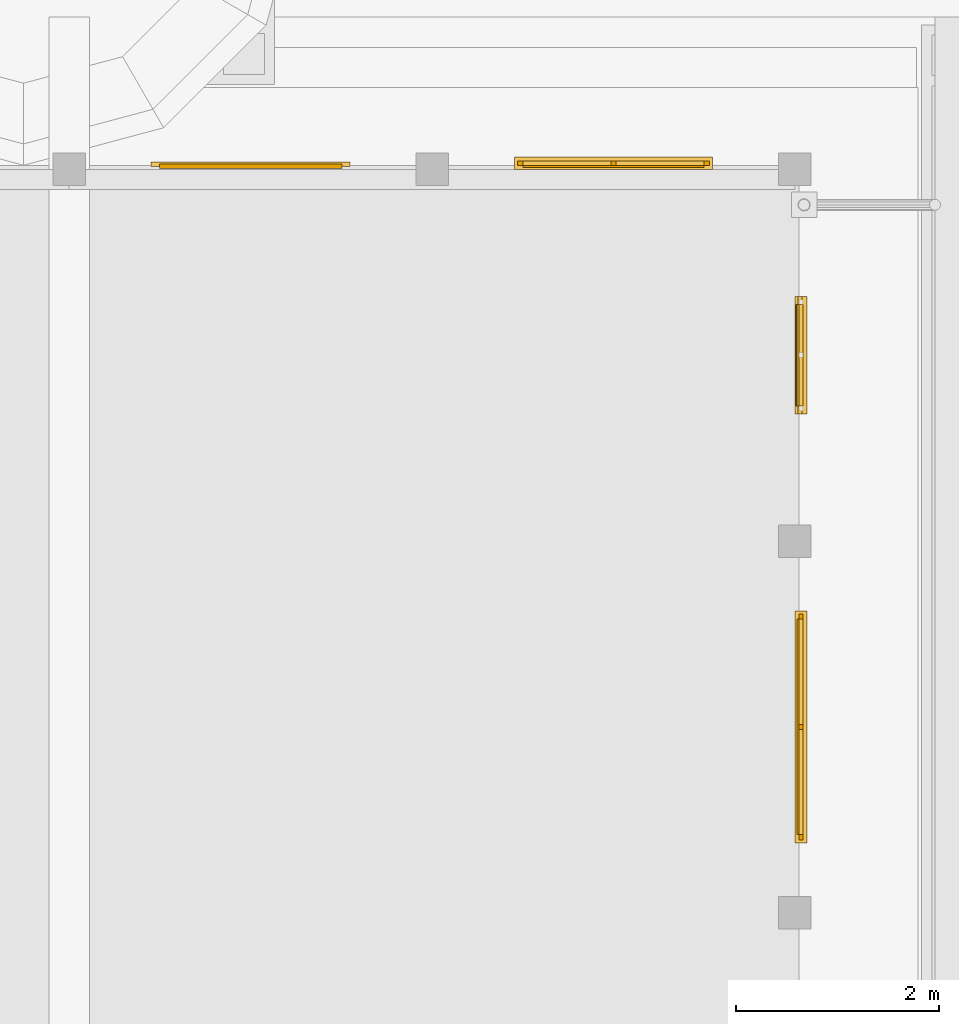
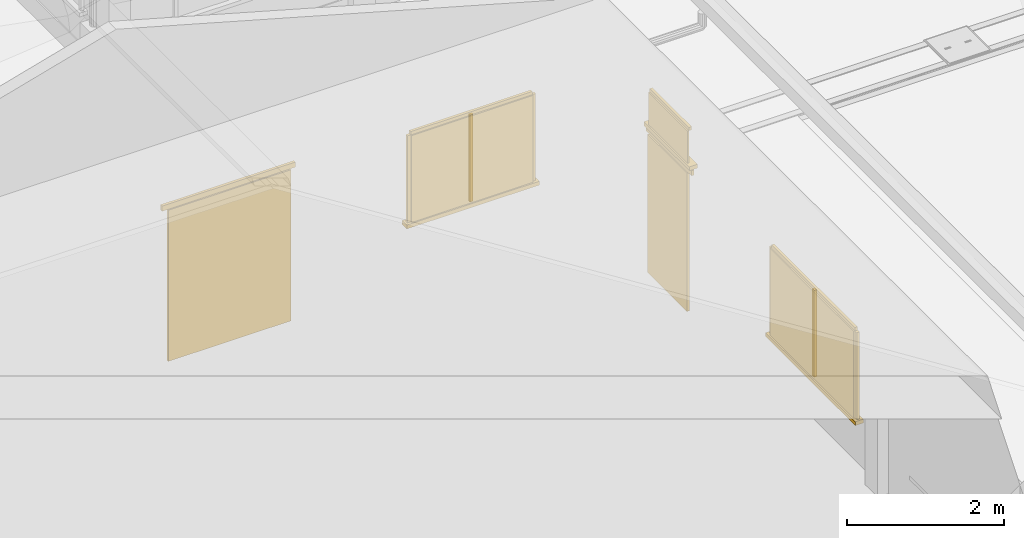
# One storey, part 61 of 177: 15 windows, 4 doors.
"""IFC4 building model written with IfcOpenShell, lengths in metres."""

from ifc_helpers import new_model, si_unit, origin, origin_with_axes, place, context, subcontext, project, spatial, triangles, element, save


model = new_model("IFC4")

# Units and contexts
model_context = context("Model", 3, precision=1e-05, world=origin_with_axes())
body_context = subcontext(model_context, "Body", "Model", "MODEL_VIEW")
ifc_project = project(units=[si_unit("LENGTHUNIT", "METRE"), si_unit("AREAUNIT", "SQUARE_METRE"), si_unit("VOLUMEUNIT", "CUBIC_METRE"), si_unit("PLANEANGLEUNIT", "RADIAN")], contexts=[model_context])

# Site, building, storey
site_placement = place(None, origin_with_axes())
site = spatial("IfcSite", under=ifc_project, at=site_placement, Name="Predio Los Mangos - Morales, San Martín", CompositionType="ELEMENT")
building_placement = place(site_placement, origin())
building = spatial("IfcBuilding", under=site, at=building_placement, Name="Hogar de Refugio Temporal", CompositionType="ELEMENT")
storey_placement = place(building_placement, origin())
storey = spatial("IfcBuildingStorey", under=building, at=storey_placement, Name="NIVEL 1 (NPT +0.00)", CompositionType="ELEMENT", Elevation=0.0)

# Doors
door_1_placement = place(storey_placement, origin())
element("IfcDoor", 1, at=door_1_placement, inside=storey, Name="E-05_pp", ObjectType="Puerta", PredefinedType="DOOR", context=body_context, shape_type="Tessellation", body=[
    triangles([(53.3375, 87.21, 0.15), (55.1375, 87.21, 0.15), (55.1375, 87.25, 0.15), (53.3375, 87.25, 0.15), (53.3375, 87.21, 2.5), (55.1375, 87.21, 2.5), (55.1375, 87.25, 2.5), (53.3375, 87.25, 2.5)], [[1, 4, 3], [1, 3, 2], [5, 6, 7], [5, 7, 8], [1, 2, 6], [1, 6, 5], [2, 3, 7], [2, 7, 6], [3, 4, 8], [3, 8, 7], [4, 1, 5], [4, 5, 8]]),
])
door_2_placement = place(storey_placement, origin())
element("IfcDoor", 2, at=door_2_placement, inside=storey, Name="E-05_pp_marco", ObjectType="Puerta", PredefinedType="DOOR", context=body_context, shape_type="Tessellation", body=[
    triangles([(53.2575, 87.23, 2.5), (55.2175, 87.23, 2.5), (55.2175, 87.27, 2.5), (53.2575, 87.27, 2.5), (53.2575, 87.23, 2.58), (55.2175, 87.23, 2.58), (55.2175, 87.27, 2.58), (53.2575, 87.27, 2.58)], [[1, 4, 3], [1, 3, 2], [5, 6, 7], [5, 7, 8], [1, 2, 6], [1, 6, 5], [2, 3, 7], [2, 7, 6], [3, 4, 8], [3, 8, 7], [4, 1, 5], [4, 5, 8]]),
])

# Windows
window_1_placement = place(storey_placement, origin())
element("IfcWindow", 3, at=window_1_placement, inside=storey, Name="E-05_vg3_vid", ObjectType="Ventana", PredefinedType="WINDOW", context=body_context, shape_type="Tessellation", body=[
    triangles([(56.9188, 87.22, 1.05), (58.7062, 87.22, 1.05), (58.7062, 87.24, 1.05), (56.9188, 87.24, 1.05), (56.9188, 87.22, 2.4), (58.7062, 87.22, 2.4), (58.7062, 87.24, 2.4), (56.9188, 87.24, 2.4)], [[1, 4, 3], [1, 3, 2], [5, 6, 7], [5, 7, 8], [1, 2, 6], [1, 6, 5], [2, 3, 7], [2, 7, 6], [3, 4, 8], [3, 8, 7], [4, 1, 5], [4, 5, 8]]),
])
window_2_placement = place(storey_placement, origin())
element("IfcWindow", 4, at=window_2_placement, inside=storey, Name="E-05_vg3_m", ObjectType="Ventana", PredefinedType="WINDOW", context=body_context, shape_type="Tessellation", body=[
    triangles([(56.8688, 87.24, 1.05), (56.9188, 87.24, 1.05), (56.9188, 87.28, 1.05), (56.8688, 87.28, 1.05), (56.8688, 87.24, 2.4), (56.9188, 87.24, 2.4), (56.9188, 87.28, 2.4), (56.8688, 87.28, 2.4)], [[1, 4, 3], [1, 3, 2], [5, 6, 7], [5, 7, 8], [1, 2, 6], [1, 6, 5], [2, 3, 7], [2, 7, 6], [3, 4, 8], [3, 8, 7], [4, 1, 5], [4, 5, 8]]),
])
window_3_placement = place(storey_placement, origin())
element("IfcWindow", 5, at=window_3_placement, inside=storey, Name="E-05_vg3_m", ObjectType="Ventana", PredefinedType="WINDOW", context=body_context, shape_type="Tessellation", body=[
    triangles([(58.7062, 87.24, 1.05), (58.7562, 87.24, 1.05), (58.7562, 87.28, 1.05), (58.7062, 87.28, 1.05), (58.7062, 87.24, 2.4), (58.7562, 87.24, 2.4), (58.7562, 87.28, 2.4), (58.7062, 87.28, 2.4)], [[1, 4, 3], [1, 3, 2], [5, 6, 7], [5, 7, 8], [1, 2, 6], [1, 6, 5], [2, 3, 7], [2, 7, 6], [3, 4, 8], [3, 8, 7], [4, 1, 5], [4, 5, 8]]),
])
window_4_placement = place(storey_placement, origin())
element("IfcWindow", 6, at=window_4_placement, inside=storey, Name="E-05_vg3_m", ObjectType="Ventana", PredefinedType="WINDOW", context=body_context, shape_type="Tessellation", body=[
    triangles([(56.9188, 87.24, 2.4), (58.7062, 87.24, 2.4), (58.7062, 87.28, 2.4), (56.9188, 87.28, 2.4), (56.9188, 87.24, 2.45), (58.7062, 87.24, 2.45), (58.7062, 87.28, 2.45), (56.9188, 87.28, 2.45)], [[1, 4, 3], [1, 3, 2], [5, 6, 7], [5, 7, 8], [1, 2, 6], [1, 6, 5], [2, 3, 7], [2, 7, 6], [3, 4, 8], [3, 8, 7], [4, 1, 5], [4, 5, 8]]),
])
window_5_placement = place(storey_placement, origin())
element("IfcWindow", 7, at=window_5_placement, inside=storey, Name="E-05_vg3_m", ObjectType="Ventana", PredefinedType="WINDOW", context=body_context, shape_type="Tessellation", body=[
    triangles([(57.7875, 87.24, 1.05), (57.8375, 87.24, 1.05), (57.8375, 87.28, 1.05), (57.7875, 87.28, 1.05), (57.7875, 87.24, 2.4), (57.8375, 87.24, 2.4), (57.8375, 87.28, 2.4), (57.7875, 87.28, 2.4)], [[1, 4, 3], [1, 3, 2], [5, 6, 7], [5, 7, 8], [1, 2, 6], [1, 6, 5], [2, 3, 7], [2, 7, 6], [3, 4, 8], [3, 8, 7], [4, 1, 5], [4, 5, 8]]),
])
window_6_placement = place(storey_placement, origin())
element("IfcWindow", 8, at=window_6_placement, inside=storey, Name="E-05_vg3_alf", ObjectType="Ventana", PredefinedType="WINDOW", context=body_context, shape_type="Tessellation", body=[
    triangles([(56.8387, 87.2, 0.99), (58.7863, 87.2, 0.99), (58.7863, 87.32, 0.99), (56.8387, 87.32, 0.99), (56.8387, 87.2, 1.05), (58.7863, 87.2, 1.05), (58.7863, 87.32, 1.05), (56.8387, 87.32, 1.05)], [[1, 4, 3], [1, 3, 2], [5, 6, 7], [5, 7, 8], [1, 2, 6], [1, 6, 5], [2, 3, 7], [2, 7, 6], [3, 4, 8], [3, 8, 7], [4, 1, 5], [4, 5, 8]]),
])
window_7_placement = place(storey_placement, origin())
element("IfcWindow", 9, at=window_7_placement, inside=storey, Name="E-05_v6_vid", ObjectType="Ventana", PredefinedType="WINDOW", context=body_context, shape_type="Tessellation", body=[
    triangles([(59.62, 80.6441, 1.05), (59.64, 80.6441, 1.05), (59.64, 82.7684, 1.05), (59.62, 82.7684, 1.05), (59.62, 80.6441, 2.4), (59.64, 80.6441, 2.4), (59.64, 82.7684, 2.4), (59.62, 82.7684, 2.4)], [[1, 4, 3], [1, 3, 2], [5, 6, 7], [5, 7, 8], [1, 2, 6], [1, 6, 5], [2, 3, 7], [2, 7, 6], [3, 4, 8], [3, 8, 7], [4, 1, 5], [4, 5, 8]]),
])
window_8_placement = place(storey_placement, origin())
element("IfcWindow", 10, at=window_8_placement, inside=storey, Name="E-05_v6_m", ObjectType="Ventana", PredefinedType="WINDOW", context=body_context, shape_type="Tessellation", body=[
    triangles([(59.64, 80.5941, 1.05), (59.68, 80.5941, 1.05), (59.68, 80.6441, 1.05), (59.64, 80.6441, 1.05), (59.64, 80.5941, 2.4), (59.68, 80.5941, 2.4), (59.68, 80.6441, 2.4), (59.64, 80.6441, 2.4)], [[1, 4, 3], [1, 3, 2], [5, 6, 7], [5, 7, 8], [1, 2, 6], [1, 6, 5], [2, 3, 7], [2, 7, 6], [3, 4, 8], [3, 8, 7], [4, 1, 5], [4, 5, 8]]),
])
window_9_placement = place(storey_placement, origin())
element("IfcWindow", 11, at=window_9_placement, inside=storey, Name="E-05_v6_m", ObjectType="Ventana", PredefinedType="WINDOW", context=body_context, shape_type="Tessellation", body=[
    triangles([(59.64, 82.7684, 1.05), (59.68, 82.7684, 1.05), (59.68, 82.8184, 1.05), (59.64, 82.8184, 1.05), (59.64, 82.7684, 2.4), (59.68, 82.7684, 2.4), (59.68, 82.8184, 2.4), (59.64, 82.8184, 2.4)], [[1, 4, 3], [1, 3, 2], [5, 6, 7], [5, 7, 8], [1, 2, 6], [1, 6, 5], [2, 3, 7], [2, 7, 6], [3, 4, 8], [3, 8, 7], [4, 1, 5], [4, 5, 8]]),
])
window_10_placement = place(storey_placement, origin())
element("IfcWindow", 12, at=window_10_placement, inside=storey, Name="E-05_v6_m", ObjectType="Ventana", PredefinedType="WINDOW", context=body_context, shape_type="Tessellation", body=[
    triangles([(59.64, 80.6441, 2.4), (59.68, 80.6441, 2.4), (59.68, 82.7684, 2.4), (59.64, 82.7684, 2.4), (59.64, 80.6441, 2.45), (59.68, 80.6441, 2.45), (59.68, 82.7684, 2.45), (59.64, 82.7684, 2.45)], [[1, 4, 3], [1, 3, 2], [5, 6, 7], [5, 7, 8], [1, 2, 6], [1, 6, 5], [2, 3, 7], [2, 7, 6], [3, 4, 8], [3, 8, 7], [4, 1, 5], [4, 5, 8]]),
])
window_11_placement = place(storey_placement, origin())
element("IfcWindow", 13, at=window_11_placement, inside=storey, Name="E-05_v6_m", ObjectType="Ventana", PredefinedType="WINDOW", context=body_context, shape_type="Tessellation", body=[
    triangles([(59.64, 81.6813, 1.05), (59.68, 81.6813, 1.05), (59.68, 81.7312, 1.05), (59.64, 81.7312, 1.05), (59.64, 81.6813, 2.4), (59.68, 81.6813, 2.4), (59.68, 81.7312, 2.4), (59.64, 81.7312, 2.4)], [[1, 4, 3], [1, 3, 2], [5, 6, 7], [5, 7, 8], [1, 2, 6], [1, 6, 5], [2, 3, 7], [2, 7, 6], [3, 4, 8], [3, 8, 7], [4, 1, 5], [4, 5, 8]]),
])
window_12_placement = place(storey_placement, origin())
element("IfcWindow", 14, at=window_12_placement, inside=storey, Name="E-05_v6_alf", ObjectType="Ventana", PredefinedType="WINDOW", context=body_context, shape_type="Tessellation", body=[
    triangles([(59.6, 80.5641, 0.99), (59.72, 80.5641, 0.99), (59.72, 82.8484, 0.99), (59.6, 82.8484, 0.99), (59.6, 80.5641, 1.05), (59.72, 80.5641, 1.05), (59.72, 82.8484, 1.05), (59.6, 82.8484, 1.05)], [[1, 4, 3], [1, 3, 2], [5, 6, 7], [5, 7, 8], [1, 2, 6], [1, 6, 5], [2, 3, 7], [2, 7, 6], [3, 4, 8], [3, 8, 7], [4, 1, 5], [4, 5, 8]]),
])

# Doors
door_3_placement = place(storey_placement, origin())
element("IfcDoor", 15, at=door_3_placement, inside=storey, Name="E-05_p7", ObjectType="Puerta", PredefinedType="DOOR", context=body_context, shape_type="Tessellation", body=[
    triangles([(59.61, 84.8688, 0.15), (59.65, 84.8688, 0.15), (59.65, 85.8688, 0.15), (59.61, 85.8688, 0.15), (59.61, 84.8688, 2.3), (59.65, 84.8688, 2.3), (59.65, 85.8688, 2.3), (59.61, 85.8688, 2.3)], [[1, 4, 3], [1, 3, 2], [5, 6, 7], [5, 7, 8], [1, 2, 6], [1, 6, 5], [2, 3, 7], [2, 7, 6], [3, 4, 8], [3, 8, 7], [4, 1, 5], [4, 5, 8]]),
])
door_4_placement = place(storey_placement, origin())
element("IfcDoor", 16, at=door_4_placement, inside=storey, Name="E-05_p7_marco", ObjectType="Puerta", PredefinedType="DOOR", context=body_context, shape_type="Tessellation", body=[
    triangles([(59.63, 84.7887, 2.3), (59.67, 84.7887, 2.3), (59.67, 85.9488, 2.3), (59.63, 85.9488, 2.3), (59.63, 84.7887, 2.38), (59.67, 84.7887, 2.38), (59.67, 85.9488, 2.38), (59.63, 85.9488, 2.38)], [[1, 4, 3], [1, 3, 2], [5, 6, 7], [5, 7, 8], [1, 2, 6], [1, 6, 5], [2, 3, 7], [2, 7, 6], [3, 4, 8], [3, 8, 7], [4, 1, 5], [4, 5, 8]]),
])

# Windows
window_13_placement = place(storey_placement, origin())
element("IfcWindow", 17, at=window_13_placement, inside=storey, Name="E-05_vt7_vid", ObjectType="Ventana", PredefinedType="WINDOW", context=body_context, shape_type="Tessellation", body=[
    triangles([(59.62, 84.8688, 2.45), (59.64, 84.8688, 2.45), (59.64, 85.8688, 2.45), (59.62, 85.8688, 2.45), (59.62, 84.8688, 2.95), (59.64, 84.8688, 2.95), (59.64, 85.8688, 2.95), (59.62, 85.8688, 2.95)], [[1, 4, 3], [1, 3, 2], [5, 6, 7], [5, 7, 8], [1, 2, 6], [1, 6, 5], [2, 3, 7], [2, 7, 6], [3, 4, 8], [3, 8, 7], [4, 1, 5], [4, 5, 8]]),
])
window_14_placement = place(storey_placement, origin())
element("IfcWindow", 18, at=window_14_placement, inside=storey, Name="E-05_vt7_m", ObjectType="Ventana", PredefinedType="WINDOW", context=body_context, shape_type="Tessellation", body=[
    triangles([(59.64, 84.8688, 2.95), (59.68, 84.8688, 2.95), (59.68, 85.8688, 2.95), (59.64, 85.8688, 2.95), (59.64, 84.8688, 3.0), (59.68, 84.8688, 3.0), (59.68, 85.8688, 3.0), (59.64, 85.8688, 3.0)], [[1, 4, 3], [1, 3, 2], [5, 6, 7], [5, 7, 8], [1, 2, 6], [1, 6, 5], [2, 3, 7], [2, 7, 6], [3, 4, 8], [3, 8, 7], [4, 1, 5], [4, 5, 8]]),
])
window_15_placement = place(storey_placement, origin())
element("IfcWindow", 19, at=window_15_placement, inside=storey, Name="E-05_vt7_alf", ObjectType="Ventana", PredefinedType="WINDOW", context=body_context, shape_type="Tessellation", body=[
    triangles([(59.6, 84.7887, 2.39), (59.72, 84.7887, 2.39), (59.72, 85.9488, 2.39), (59.6, 85.9488, 2.39), (59.6, 84.7887, 2.45), (59.72, 84.7887, 2.45), (59.72, 85.9488, 2.45), (59.6, 85.9488, 2.45)], [[1, 4, 3], [1, 3, 2], [5, 6, 7], [5, 7, 8], [1, 2, 6], [1, 6, 5], [2, 3, 7], [2, 7, 6], [3, 4, 8], [3, 8, 7], [4, 1, 5], [4, 5, 8]]),
])

save(model, "model.ifc")
